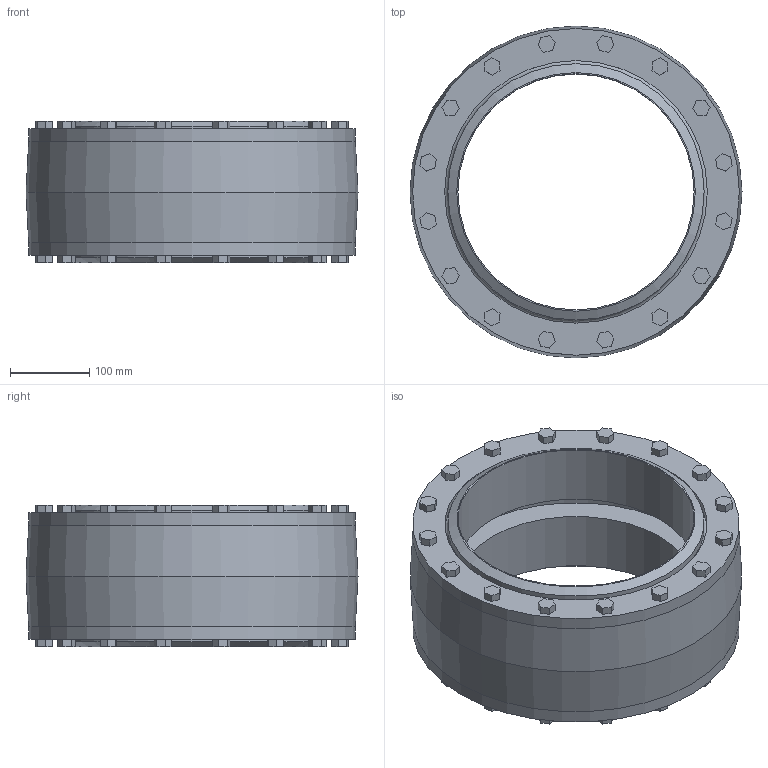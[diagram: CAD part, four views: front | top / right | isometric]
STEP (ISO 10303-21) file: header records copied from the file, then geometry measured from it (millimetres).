
FILE_DESCRIPTION(/* description */ ('VIC EXPANSION JOINT COUPLING 152-A','CAx-IF Rec.Pracs.---Representation and Presentation of Product Manufacturing Information (PMI)---4.0---2014-10-13'),/* implementation_level */ '2;1');
FILE_NAME(/* name */ 'C:\Users\kkamble\AppData\Roaming\Autodesk\ApplicationPlugins\Back Up\Victaulic_Vic-Ring_Coupling Expansion Joint_Style 152A (OGR)\Victaulic_Vic-Ring_Coupling Expansion Joint_Style 152A (OGR)_12 (300).stp',/* time_stamp */ '2020-09-10T11:33:42+05:00',/* author */ ('jheald'),/* organization */ ('Victaulic'),/* preprocessor_version */ 'ST-DEVELOPER v17.2',/* originating_system */ 'Autodesk Inventor 2019',/* authorisation */ '');
FILE_SCHEMA (('AP242_MANAGED_MODEL_BASED_3D_ENGINEERING_MIM_LF { 1 0 10303 442 1 1 4 }'));
Length unit declared in the file: inch
Products named in the file (1): 152A-12.0
Bounding box: 419.47 x 419.47 x 179.32 mm (x, y, z)
Volume: 9267758.9 mm3; surface area: 952116.3 mm2
Topology: 1 solids, 1 shells, 261 faces, 675 edges, 460 vertices
Faces by surface type: plane 238, cylinder 15, cone 6, torus 2
Full cylindrical faces by diameter (mm): 298.45 x2, 323.85 x2, 331.724 x2, 338.328 x2, 358.902 x4, 361.95 x1, 412.75 x2
Entity records: 8320 total; most frequent: CARTESIAN_POINT 1414, ORIENTED_EDGE 1350, DIRECTION 1303, EDGE_CURVE 675, LINE 597, VECTOR 597, VERTEX_POINT 460, AXIS2_PLACEMENT_3D 353
